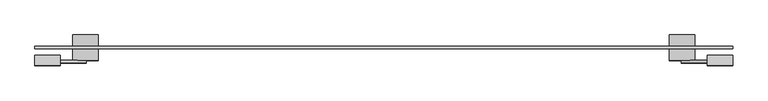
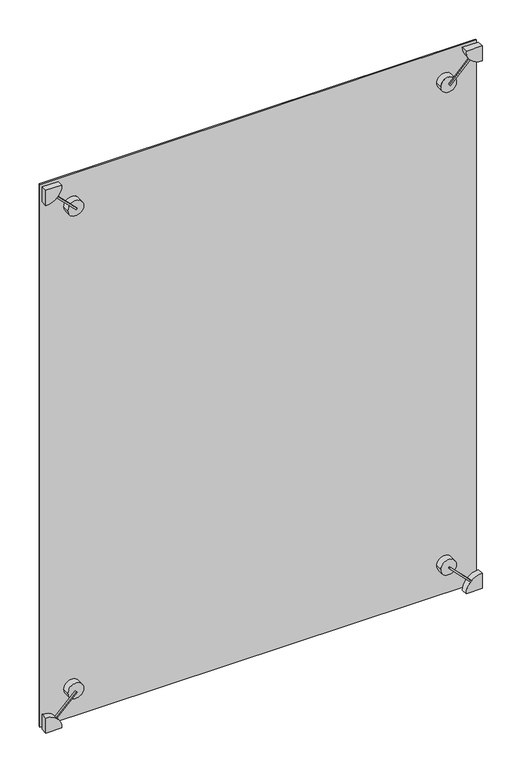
"""IFC4 building model written with IfcOpenShell, lengths in millimetres: plate geometry, 点爪式幕墙嵌板 : 点爪式幕墙嵌板."""

from ifc_helpers import new_model, si_unit, point, frame, frame_2d, origin, origin_with_axes, place, context, project, spatial, polyline, circle_curve, trimmed, segment, composite_curve, outline, extrude, source, transform, mapped, element, save
from ifc_brep_helpers import plane_surface, cylinder_surface, advanced_brep


def plate_6d8c1f3b(model_context):
    return source(origin(), model_context, "Body", "SolidModel", [
        extrude(outline(polyline([(0.0, -10.0), (0.0, 0.0), (10.0, 0.0), (10.0, -10.0), (0.0, -10.0)])), frame((-1303.7667022, -60.0, 73.3043656), z_axis=(0.7071067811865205, 0.0, 0.7071067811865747), x_axis=(0.0, 1.0, 0.0)), (0.0, 0.0, 1.0), 181.331972),
        extrude(outline(composite_curve([segment(trimmed(circle_curve(frame_2d((0.0, -1370.0)), 100.0), [point((0.0, -1270.0))], [point((100.0, -1370.0))], False, "CARTESIAN"), True, "CONTINUOUS"), segment(polyline([(100.0, -1370.0), (0.0, -1370.0), (0.0, -1270.0)]), True, "CONTINUOUS")], self_intersect=False)), frame((0.0, -70.0, 0.0), z_axis=(0.0, 1.0, 0.0), x_axis=(0.0, 0.0, 1.0)), (0.0, 0.0, 1.0), 40.0),
        extrude(outline(composite_curve([segment(trimmed(circle_curve(frame_2d((199.0051024, -1170.9948976)), 50.0), [point((199.0051024, -1120.9948976))], [point((199.0051024, -1220.9948976))], False, "CARTESIAN"), True, "CONTINUOUS"), segment(trimmed(circle_curve(frame_2d((199.0051024, -1170.9948976)), 50.0), [point((199.0051024, -1220.9948976))], [point((199.0051024, -1120.9948976))], False, "CARTESIAN"), True, "CONTINUOUS")], self_intersect=False)), frame((0.0, -50.0, 0.0), z_axis=(0.0, 1.0, 0.0), x_axis=(0.0, 0.0, 1.0)), (0.0, 0.0, 1.0), 100.0),
        extrude(outline(polyline([(0.0, -181.3319719), (0.0, 0.0), (10.0, 0.0), (10.0, -181.3319719), (0.0, -181.3319719)])), frame((1168.4745674, -60.0, 194.4543648), z_axis=(0.7071067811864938, 0.0, 0.7071067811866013), x_axis=(0.0, 1.0, 0.0)), (0.0, 0.0, 1.0), 10.0),
        extrude(outline(composite_curve([segment(polyline([(0.0, 1270.0), (0.0, 1370.0), (100.0, 1370.0)]), True, "CONTINUOUS"), segment(trimmed(circle_curve(frame_2d((0.0, 1370.0)), 100.0), [point((100.0, 1370.0))], [point((0.0, 1270.0))], False, "CARTESIAN"), True, "CONTINUOUS")], self_intersect=False)), frame((0.0, -70.0, 0.0), z_axis=(0.0, 1.0, 0.0), x_axis=(0.0, 0.0, 1.0)), (0.0, 0.0, 1.0), 40.0),
        extrude(outline(composite_curve([segment(trimmed(circle_curve(frame_2d((199.0051024, 1170.9948976)), 50.0), [point((199.0051024, 1120.9948976))], [point((199.0051024, 1220.9948976))], False, "CARTESIAN"), True, "CONTINUOUS"), segment(trimmed(circle_curve(frame_2d((199.0051024, 1170.9948976)), 50.0), [point((199.0051024, 1220.9948976))], [point((199.0051024, 1120.9948976))], False, "CARTESIAN"), True, "CONTINUOUS")], self_intersect=False)), frame((0.0, -50.0, 0.0), z_axis=(0.0, 1.0, 0.0), x_axis=(0.0, 0.0, 1.0)), (0.0, 0.0, 1.0), 100.0),
        extrude(outline(polyline([(0.0, -181.3319719), (0.0, 0.0), (10.0, 0.0), (10.0, -181.3319719), (0.0, -181.3319719)])), frame((-1303.7667022, -60.0, 3526.6956344), z_axis=(0.7071067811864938, 0.0, 0.7071067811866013), x_axis=(0.0, 1.0, 0.0)), (0.0, 0.0, 1.0), 10.0),
        extrude(outline(composite_curve([segment(polyline([(3600.0, -1270.0), (3600.0, -1370.0), (3500.0, -1370.0)]), True, "CONTINUOUS"), segment(trimmed(circle_curve(frame_2d((3600.0, -1370.0)), 100.0), [point((3500.0, -1370.0))], [point((3600.0, -1270.0))], False, "CARTESIAN"), True, "CONTINUOUS")], self_intersect=False)), frame((0.0, -70.0, 0.0), z_axis=(0.0, 1.0, 0.0), x_axis=(0.0, 0.0, 1.0)), (0.0, 0.0, 1.0), 40.0),
        extrude(outline(composite_curve([segment(trimmed(circle_curve(frame_2d((3400.9948976, -1170.9948976)), 50.0), [point((3400.9948976, -1120.9948976))], [point((3400.9948976, -1220.9948976))], False, "CARTESIAN"), True, "CONTINUOUS"), segment(trimmed(circle_curve(frame_2d((3400.9948976, -1170.9948976)), 50.0), [point((3400.9948976, -1220.9948976))], [point((3400.9948976, -1120.9948976))], False, "CARTESIAN"), True, "CONTINUOUS")], self_intersect=False)), frame((0.0, -50.0, 0.0), z_axis=(0.0, 1.0, 0.0), x_axis=(0.0, 0.0, 1.0)), (0.0, 0.0, 1.0), 100.0),
        advanced_brep(
        [(1120.9948976, -50.0, 3400.9948976), (1220.9948976, -50.0, 3400.9948976), (1209.7085497, -50.0, 3432.6374819), (1175.5456352, -50.0, 3398.4745674), (1168.4745674, -50.0, 3405.5456352), (1202.6374819, -50.0, 3439.7085497), (1120.9948976, 50.0, 3400.9948976), (1220.9948976, 50.0, 3400.9948976), (1168.4745674, -60.0, 3405.5456352), (1175.5456352, -60.0, 3398.4745674), (1302.9132994, -60.0, 3525.8422316), (1295.8422316, -60.0, 3532.9132994), (1295.8422316, -50.0, 3532.9132994), (1302.9132994, -50.0, 3525.8422316), (1270.0, -70.0, 3600.0), (1370.0, -70.0, 3500.0), (1370.0, -70.0, 3600.0), (1270.0, -30.0, 3600.0), (1370.0, -30.0, 3600.0), (1370.0, -30.0, 3500.0)],
        [
            (0, 1, circle_curve(frame((1170.9948976, -50.0, 3400.9948976), z_axis=(0.0, -1.0, 0.0), x_axis=(1.0, 0.0, 0.0)), 50.0)),
            (1, 2, circle_curve(frame((1170.9948976, -50.0, 3400.9948976), z_axis=(0.0, -1.0, 0.0), x_axis=(1.0, 0.0, 0.0)), 50.0)),
            (2, 3),
            (3, 4),
            (4, 5),
            (5, 0, circle_curve(frame((1170.9948976, -50.0, 3400.9948976), z_axis=(0.0, -1.0, 0.0), x_axis=(1.0, 0.0, 0.0)), 50.0)),
            (6, 7, circle_curve(frame((1170.9948976, 50.0, 3400.9948976), z_axis=(0.0, 1.0, 0.0), x_axis=(1.0, 0.0, 0.0)), 50.0)),
            (7, 6, circle_curve(frame((1170.9948976, 50.0, 3400.9948976), z_axis=(0.0, 1.0, 0.0), x_axis=(1.0, 0.0, 0.0)), 50.0)),
            (0, 6),
            (7, 1),
            (5, 2, circle_curve(frame((1170.9948976, -50.0, 3400.9948976), z_axis=(0.0, 1.0, 0.0), x_axis=(1.0, 0.0, 0.0)), 50.0)),
            (8, 9),
            (9, 10),
            (10, 11, circle_curve(frame((1370.0, -60.0, 3600.0), z_axis=(0.0, 1.0, 0.0), x_axis=(1.0, 0.0, 0.0)), 100.0)),
            (11, 8),
            (5, 12),
            (12, 13, circle_curve(frame((1370.0, -50.0, 3600.0), z_axis=(0.0, -1.0, 0.0), x_axis=(1.0, 0.0, 0.0)), 100.0)),
            (13, 2),
            (4, 8),
            (11, 12),
            (3, 9),
            (13, 10),
            (14, 15, circle_curve(frame((1370.0, -70.0, 3600.0), z_axis=(0.0, -1.0, 0.0), x_axis=(1.0, 0.0, 0.0)), 100.0)),
            (15, 16),
            (16, 14),
            (17, 18),
            (18, 19),
            (19, 17, circle_curve(frame((1370.0, -30.0, 3600.0), z_axis=(0.0, 1.0, 0.0), x_axis=(1.0, 0.0, 0.0)), 100.0)),
            (14, 17),
            (19, 15),
            (18, 16),
        ],
        [
            plane_surface(frame((1220.9948976, -50.0, 3400.9948976), z_axis=(0.0, -1.0, 0.0), x_axis=(0.0, 0.0, 1.0))),
            plane_surface(frame((1220.9948976, 50.0, 3400.9948976), z_axis=(0.0, 1.0, 0.0), x_axis=(0.0, 0.0, -1.0))),
            cylinder_surface(frame((1170.9948976, 50.0, 3400.9948976), z_axis=(0.0, -1.0, 0.0), x_axis=(1.0, 0.0, 0.0)), 50.0),
            plane_surface(frame((1168.4745674, -60.0, 3405.5456352), z_axis=(0.0, -1.0000000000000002, 0.0), x_axis=(-0.7071067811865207, 0.0, -0.7071067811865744))),
            plane_surface(frame((1168.4745674, -50.0, 3405.5456352), z_axis=(0.0, 1.0000000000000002, 0.0), x_axis=(0.7071067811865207, 0.0, 0.7071067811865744))),
            plane_surface(frame((1296.6956344, -60.0, 3533.7667022), z_axis=(-0.7071067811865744, 0.0, 0.7071067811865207), x_axis=(0.0, 1.0, 0.0))),
            plane_surface(frame((1168.4745674, -60.0, 3405.5456352), z_axis=(-0.7071067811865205, 0.0, -0.7071067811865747), x_axis=(0.0, 1.0, 0.0))),
            plane_surface(frame((1175.5456352, -60.0, 3398.4745674), z_axis=(0.7071067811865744, 0.0, -0.7071067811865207), x_axis=(0.0, 1.0, 0.0))),
            plane_surface(frame((1470.0, -70.0, 3600.0), z_axis=(0.0, -1.0, 0.0), x_axis=(0.0, 0.0, 1.0))),
            plane_surface(frame((1470.0, -30.0, 3600.0), z_axis=(0.0, 1.0, 0.0), x_axis=(0.0, 0.0, -1.0))),
            cylinder_surface(frame((1370.0, -30.0, 3600.0), z_axis=(0.0, -1.0, 0.0), x_axis=(1.0, 0.0, 0.0)), 100.0),
            plane_surface(frame((1370.0, -70.0, 3500.0), z_axis=(1.0, 0.0, 0.0), x_axis=(0.0, 1.0, 0.0))),
            plane_surface(frame((1370.0, -70.0, 3600.0), z_axis=(0.0, 0.0, 1.0), x_axis=(0.0, 1.0, 0.0))),
        ],
        [
            (0, [[1, 2, 3, 4, 5, 6]]),
            (1, [[7, 8]]),
            (2, [[-1, 9, -8, 10]]),
            (2, [[-7, -9, -6, 11, -2, -10]]),
            (3, [[12, 13, 14, 15]]),
            (4, [[-11, 16, 17, 18]]),
            (5, [[19, -15, 20, -16, -5]]),
            (6, [[-12, -19, -4, 21]]),
            (7, [[-21, -3, -18, 22, -13]]),
            (8, [[23, 24, 25]]),
            (9, [[26, 27, 28]]),
            (10, [[-23, 29, -28, 30], [-14, -22, -17, -20]]),
            (11, [[-24, -30, -27, 31]]),
            (12, [[-25, -31, -26, -29]]),
        ],
    ),
        extrude(outline(polyline([(1370.0, 5.0), (1370.0, -5.0), (-1370.0, -5.0), (-1370.0, 5.0), (1370.0, 5.0)])), origin_with_axes(), (0.0, 0.0, 1.0), 3600.0),
    ])


if __name__ == "__main__":
    model = new_model("IFC4")
    model_context = context("Model", 3, world=origin())
    ifc_project = project(units=[si_unit("LENGTHUNIT", "METRE", prefix="MILLI")], contexts=[model_context])
    site = spatial("IfcSite", under=ifc_project)
    building = spatial("IfcBuilding", under=site)
    placement = place(None, origin())
    plate_shape = plate_6d8c1f3b(model_context)
    element("IfcPlate", 1, ObjectType="点爪式幕墙嵌板 : 点爪式幕墙嵌板", at=placement, inside=building, context=model_context, shape_type="MappedRepresentation", body=[
        mapped(plate_shape, transform((0.0, 0.0, 0.0), x_axis=(1.0, 0.0, 0.0), y_axis=(0.0, 1.0, 0.0), z_axis=(0.0, 0.0, 1.0))),
    ])
    save(model, "model.ifc")
